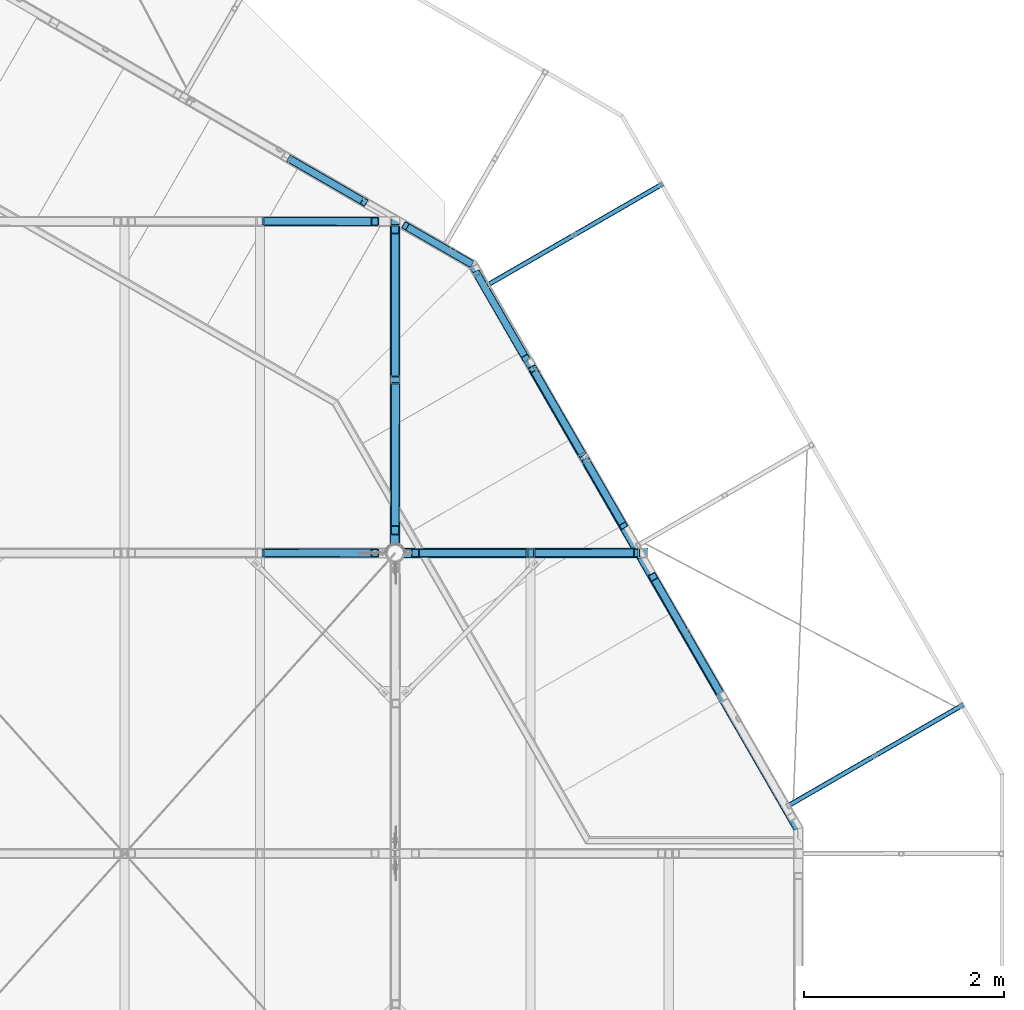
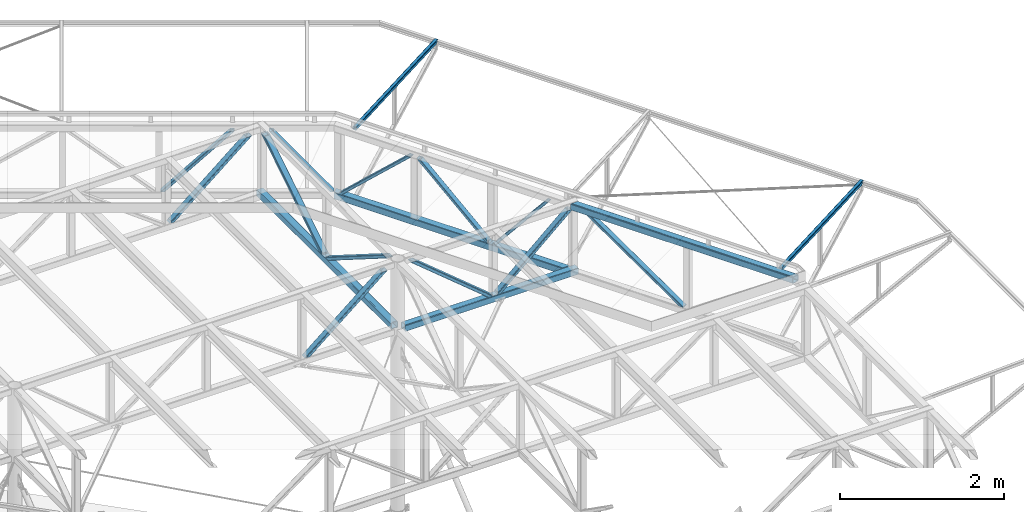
# One storey, part 59 of 132: 18 discrete accessories, 9 elements without a shape of their own.
"""IFC2X3 building model written with IfcOpenShell, lengths in millimetres."""

from ifc_helpers import new_model, si_unit, frame, origin_with_axes, origin_2d_with_axis, place, context, subcontext, project, spatial, hollow_rectangle, circle, extrude, boolean, clip, halfspace, material, type_object, element, aggregate, save


model = new_model("IFC2X3")

# Units and contexts
model_context = context("Model", 3, precision=1e-05, world=origin_with_axes())
body_context = subcontext(model_context, "Body", "Model", "MODEL_VIEW")
ifc_project = project(units=[si_unit("LENGTHUNIT", "METRE", prefix="MILLI"), si_unit("AREAUNIT", "SQUARE_METRE"), si_unit("VOLUMEUNIT", "CUBIC_METRE"), si_unit("MASSUNIT", "GRAM", prefix="KILO"), si_unit("TIMEUNIT", "SECOND"), si_unit("PLANEANGLEUNIT", "RADIAN"), si_unit("SOLIDANGLEUNIT", "STERADIAN"), si_unit("THERMODYNAMICTEMPERATUREUNIT", "DEGREE_CELSIUS"), si_unit("LUMINOUSINTENSITYUNIT", "LUMEN")], contexts=[model_context])

# Site, building, storey
site_placement = place(None, origin_with_axes())
site = spatial("IfcSite", under=ifc_project, at=site_placement, Name="Budowa", CompositionType="ELEMENT")
building_placement = place(site_placement, origin_with_axes())
building = spatial("IfcBuilding", under=site, at=building_placement, Name="Undefined", CompositionType="ELEMENT")
storey_placement = place(building_placement, origin_with_axes())
storey = spatial("IfcBuildingStorey", under=building, at=storey_placement, Name="Undefined", CompositionType="ELEMENT", Elevation=0.0)

# Assembly, discrete accessory
assembly_1_placement = place(storey_placement, origin_with_axes())
assembly_1 = element("IfcElementAssembly", 1, at=assembly_1_placement, inside=storey, Name="Steel Assembly", AssemblyPlace="NOTDEFINED", PredefinedType="RIGID_FRAME")
ifc_material = material(Name="STEEL/S235")
discrete_accessory_type = type_object("IfcDiscreteAccessoryType", Name="BEAM")
discrete_accessory_1_placement = place(assembly_1_placement, frame((24169.0634543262, 15491.2543884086, 13855.0311915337), z_axis=(-0.499969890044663, 0.866042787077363, 0.0), x_axis=(0.864962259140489, 0.499346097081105, 0.0499376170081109)))
discrete_accessory_1 = element("IfcDiscreteAccessory", 2, at=discrete_accessory_1_placement, type_object=discrete_accessory_type, material=ifc_material, Name="BEAM", ObjectType="SHS50*4", context=body_context, shape_type="Clipping", body=[
    clip(clip(extrude(hollow_rectangle(XDim=50.0, YDim=50.0, WallThickness=4.0, InnerFilletRadius=4.0, OuterFilletRadius=8.0, at=origin_2d_with_axis()), frame((2047.80222226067, -1.81898940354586e-12, -1.00153404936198e-12), z_axis=(-1.0, 0.0, 0.0), x_axis=(0.0, -1.0, 0.0)), (0.0, 0.0, 1.0), 2120.54), halfspace(frame((2002.5989463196, -25.0000000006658, -7.85761585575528e-07), z_axis=(-0.689225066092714, -0.724547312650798, 2.88487317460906e-10), x_axis=(0.0, 0.0, -1.0)), True)), halfspace(frame((-1.23691279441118e-08, -25.0000000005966, 73.1665326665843), z_axis=(-0.998752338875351, -0.0499376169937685, 0.0), x_axis=(0.0, 0.0, -1.0)), False)),
])
aggregate(assembly_1, [discrete_accessory_1])

assembly_2_placement = place(storey_placement, origin_with_axes())
assembly_2 = element("IfcElementAssembly", 3, at=assembly_2_placement, inside=storey, Name="Steel Assembly", AssemblyPlace="NOTDEFINED", PredefinedType="RIGID_FRAME")
discrete_accessory_2_placement = place(assembly_2_placement, frame((21169.1983036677, 20687.484663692, 13855.0311915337), z_axis=(-0.499969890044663, 0.866042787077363, 0.0), x_axis=(0.864962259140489, 0.499346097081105, 0.0499376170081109)))
discrete_accessory_2 = element("IfcDiscreteAccessory", 4, at=discrete_accessory_2_placement, type_object=discrete_accessory_type, material=ifc_material, Name="BEAM", ObjectType="SHS50*4", context=body_context, shape_type="Clipping", body=[
    clip(clip(extrude(hollow_rectangle(XDim=50.0, YDim=50.0, WallThickness=4.0, InnerFilletRadius=4.0, OuterFilletRadius=8.0, at=origin_2d_with_axis()), frame((2047.80222226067, -1.81898940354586e-12, -1.00153404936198e-12), z_axis=(-1.0, 0.0, 0.0), x_axis=(0.0, -1.0, 0.0)), (0.0, 0.0, 1.0), 2120.54), halfspace(frame((2002.5989463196, -25.0000000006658, -7.85761585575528e-07), z_axis=(-0.689225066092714, -0.724547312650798, 2.88487317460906e-10), x_axis=(0.0, 0.0, -1.0)), True)), halfspace(frame((-1.23691279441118e-08, -25.0000000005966, 73.1665326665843), z_axis=(-0.998752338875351, -0.0499376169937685, 0.0), x_axis=(0.0, 0.0, -1.0)), False)),
])
aggregate(assembly_2, [discrete_accessory_2])

# Assembly, discrete accessories
assembly_3_placement = place(storey_placement, origin_with_axes())
assembly_3 = element("IfcElementAssembly", 5, at=assembly_3_placement, inside=storey, Name="Steel Assembly", AssemblyPlace="NOTDEFINED", PredefinedType="RIGID_FRAME")
discrete_accessory_3_placement = place(assembly_3_placement, frame((23489.6987875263, 16565.565121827, 12830.0000000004), z_axis=(0.866025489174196, 0.499999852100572, 0.0), x_axis=(-0.412062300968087, 0.713712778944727, 0.566408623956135)))
solid_1 = boolean("DIFFERENCE", boolean("DIFFERENCE", extrude(hollow_rectangle(XDim=90.0, YDim=90.0, WallThickness=4.0, InnerFilletRadius=4.0, OuterFilletRadius=8.0, at=origin_2d_with_axis()), frame((538.088190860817, 782.918321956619, -1.00875396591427e-07), z_axis=(-0.566408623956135, -0.824124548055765, 1.04791647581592e-10), x_axis=(0.0, 0.0, 1.0)), (0.0, 0.0, 1.0), 900.0), halfspace(frame((-286.036357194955, 1349.32694591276, 5.13755367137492e-08), z_axis=(-0.566408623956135, -0.824124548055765, 1.04791647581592e-10), x_axis=(0.0, 0.0, 1.0)), True)), halfspace(frame((-795.804118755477, 607.614852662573, 1.45690137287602e-07), z_axis=(0.566408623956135, 0.824124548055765, -1.04794017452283e-10), x_axis=(0.0, 0.0, -1.0)), True))
discrete_accessory_3 = element("IfcDiscreteAccessory", 6, at=discrete_accessory_3_placement, type_object=discrete_accessory_type, material=ifc_material, Name="BEAM", ObjectType="RHS80*40*4", context=body_context, shape_type="CSG", body=[
    boolean("DIFFERENCE", boolean("DIFFERENCE", boolean("DIFFERENCE", extrude(hollow_rectangle(XDim=40.0, YDim=80.0, WallThickness=4.0, InnerFilletRadius=4.0, OuterFilletRadius=8.0, at=origin_2d_with_axis()), frame((1787.39149860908, -1.98440319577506e-13, -3.60765181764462e-12), z_axis=(-1.0, 0.0, 0.0), x_axis=(0.0, -1.0, 0.0)), (0.0, 0.0, 1.0), 1809.27), solid_1), halfspace(frame((1737.18941065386, -41.2062274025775, 1000.00000000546), z_axis=(-0.566408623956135, -0.824124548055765, 1.04791647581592e-10), x_axis=(0.824124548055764, -0.566408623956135, -1.52471329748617e-10)), True)), halfspace(frame((28.3204313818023, 41.2062274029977, 999.999999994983), z_axis=(0.566408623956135, 0.824124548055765, -1.04794017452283e-10), x_axis=(-0.824124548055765, 0.566408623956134, 1.52474967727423e-10)), True)),
])
discrete_accessory_4_placement = place(assembly_3_placement, frame((22704.5987308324, 17925.3981897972, 13830.0), z_axis=(0.866025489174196, 0.499999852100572, 0.0), x_axis=(0.5000000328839, -0.866025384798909, 0.0)))
discrete_accessory_4 = element("IfcDiscreteAccessory", 7, at=discrete_accessory_4_placement, type_object=discrete_accessory_type, material=ifc_material, Name="BEAM", ObjectType="SHS100*8", context=body_context, shape_type="Clipping", body=[
    clip(clip(extrude(hollow_rectangle(XDim=100.0, YDim=100.0, WallThickness=8.0, InnerFilletRadius=8.0, OuterFilletRadius=16.0, at=origin_2d_with_axis()), frame((3156.92730982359, 0.0, 0.0), z_axis=(-1.0, 0.0, 0.0), x_axis=(0.0, -1.0, 0.0)), (0.0, 0.0, 1.0), 3251.23), halfspace(frame((3077.40508994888, 0.0, -50.0000000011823), z_axis=(0.965925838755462, 0.0, -0.2588189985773), x_axis=(0.0, -1.0, 0.0)), False)), halfspace(frame((0.518048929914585, -50.0, 49.7009042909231), z_axis=(0.866025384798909, 0.0, -0.5000000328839), x_axis=(0.0, 1.0, 0.0)), True)),
])
aggregate(assembly_3, [discrete_accessory_3, discrete_accessory_4])

assembly_4_placement = place(storey_placement, origin_with_axes())
assembly_4 = element("IfcElementAssembly", 8, at=assembly_4_placement, inside=storey, Name="Steel Assembly", AssemblyPlace="NOTDEFINED", PredefinedType="RIGID_FRAME")
discrete_accessory_5_placement = place(assembly_4_placement, frame((21005.0392852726, 20873.8500649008, 12829.9999999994), z_axis=(0.499969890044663, 0.866042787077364, 0.0), x_axis=(-0.550737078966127, 0.317942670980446, 0.771751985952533)))
discrete_accessory_5 = element("IfcDiscreteAccessory", 9, at=discrete_accessory_5_placement, type_object=discrete_accessory_type, material=ifc_material, Name="BEAM", ObjectType="RHS80*40*4", context=body_context, shape_type="Clipping", body=[
    clip(clip(extrude(hollow_rectangle(XDim=40.0, YDim=80.0, WallThickness=4.0, InnerFilletRadius=4.0, OuterFilletRadius=8.0, at=origin_2d_with_axis()), frame((1308.75188651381, 7.64194053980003e-13, -5.26465298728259e-14), z_axis=(-1.0, 0.0, 0.0), x_axis=(0.0, -1.0, 0.0)), (0.0, 0.0, 1.0), 1321.75), halfspace(frame((1257.16546421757, -31.7961818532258, 1000.0000000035), z_axis=(-0.771751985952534, -0.635923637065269, 7.1397709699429e-11), x_axis=(0.635923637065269, -0.771751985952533, -5.88306647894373e-11)), True)), halfspace(frame((38.5875993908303, 31.7961818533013, 999.999999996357), z_axis=(0.771751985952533, 0.63592363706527, -7.13974205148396e-11), x_axis=(-0.635923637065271, 0.771751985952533, 5.8831574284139e-11)), True)),
])
discrete_accessory_6_placement = place(assembly_4_placement, frame((22524.601550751, 18237.3625633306, 13830.0000000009), z_axis=(0.866025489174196, 0.499999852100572, 0.0), x_axis=(-0.317961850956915, 0.550726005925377, -0.771751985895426)))
solid_2 = boolean("DIFFERENCE", boolean("DIFFERENCE", extrude(hollow_rectangle(XDim=100.0, YDim=100.0, WallThickness=4.0, InnerFilletRadius=4.0, OuterFilletRadius=8.0, at=origin_2d_with_axis()), frame((562.315003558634, 603.795327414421, 8.66620607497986e-08), z_axis=(0.771751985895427, -0.635923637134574, 1.24207727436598e-10), x_axis=(0.635923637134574, 0.771751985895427, 1.02347408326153e-10)), (0.0, 0.0, 1.0), 900.0), halfspace(frame((562.315003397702, 603.795327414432, 1000.00000008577), z_axis=(0.771751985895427, -0.635923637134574, 1.24207727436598e-10), x_axis=(0.635923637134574, 0.771751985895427, 1.02347408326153e-10)), True)), halfspace(frame((1256.89179070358, 31.4640539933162, 1000.00000019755), z_axis=(-0.771751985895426, 0.635923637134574, -1.24207010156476e-10), x_axis=(-0.635923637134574, -0.771751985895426, -1.02347257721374e-10)), True))
discrete_accessory_6 = element("IfcDiscreteAccessory", 10, at=discrete_accessory_6_placement, type_object=discrete_accessory_type, material=ifc_material, Name="BEAM", ObjectType="RHS80*40*4", context=body_context, shape_type="CSG", body=[
    boolean("DIFFERENCE", boolean("DIFFERENCE", boolean("DIFFERENCE", extrude(hollow_rectangle(XDim=40.0, YDim=80.0, WallThickness=4.0, InnerFilletRadius=4.0, OuterFilletRadius=8.0, at=origin_2d_with_axis()), frame((1286.18037682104, -1.81898940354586e-12, 9.30315642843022e-13), z_axis=(-1.0, 0.0, 0.0), x_axis=(0.0, -1.0, 0.0)), (0.0, 0.0, 1.0), 1276.61), solid_2), halfspace(frame((1257.16546406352, 31.7961818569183, 999.999999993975), z_axis=(-0.771751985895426, 0.635923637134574, -1.24207010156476e-10), x_axis=(-0.635923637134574, -0.771751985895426, -1.02347257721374e-10)), True)), halfspace(frame((38.5875991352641, -31.7961818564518, 1000.0000000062), z_axis=(0.771751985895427, -0.635923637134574, 1.24207727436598e-10), x_axis=(0.635923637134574, 0.771751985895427, 1.02347408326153e-10)), True)),
])
discrete_accessory_7_placement = place(assembly_4_placement, frame((21572.8166314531, 19885.9021784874, 13830.0000000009), z_axis=(0.866025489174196, 0.499999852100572, 0.0), x_axis=(0.366880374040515, -0.635455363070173, -0.679408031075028)))
solid_3 = boolean("DIFFERENCE", boolean("DIFFERENCE", extrude(hollow_rectangle(XDim=100.0, YDim=100.0, WallThickness=4.0, InnerFilletRadius=4.0, OuterFilletRadius=8.0, at=origin_2d_with_axis()), frame((33.9704017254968, 36.6880335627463, 1.12347189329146e-08), z_axis=(0.679408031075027, 0.733760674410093, 2.95361735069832e-10), x_axis=(-0.733760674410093, 0.679408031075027, -3.18989779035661e-10)), (0.0, 0.0, 1.0), 900.0), halfspace(frame((33.9704012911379, 36.6880335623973, 1000.0000000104), z_axis=(0.679408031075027, 0.733760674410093, 2.95361735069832e-10), x_axis=(-0.733760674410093, 0.679408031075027, -3.18989779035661e-10)), True)), halfspace(frame((645.437629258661, 697.072640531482, 1000.00000027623), z_axis=(-0.679408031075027, -0.733760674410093, -2.95362433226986e-10), x_axis=(0.733760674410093, -0.679408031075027, 3.18989805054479e-10)), True))
solid_4 = boolean("DIFFERENCE", boolean("DIFFERENCE", extrude(hollow_rectangle(XDim=100.0, YDim=100.0, WallThickness=4.0, InnerFilletRadius=4.0, OuterFilletRadius=8.0, at=origin_2d_with_axis()), frame((826.431930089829, -697.072639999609, 3.55705837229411e-07), z_axis=(0.679408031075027, 0.733760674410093, 2.95361735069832e-10), x_axis=(-0.733760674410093, 0.679408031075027, -3.18989779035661e-10)), (0.0, 0.0, 1.0), 900.0), halfspace(frame((826.431929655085, -697.0726399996, 1000.00000035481), z_axis=(0.679408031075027, 0.733760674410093, 2.95361735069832e-10), x_axis=(-0.733760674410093, 0.679408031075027, -3.18989779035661e-10)), True)), halfspace(frame((1437.89915762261, -36.6880330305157, 1000.00000062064), z_axis=(-0.679408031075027, -0.733760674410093, -2.95362433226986e-10), x_axis=(0.733760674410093, -0.679408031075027, 3.18989805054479e-10)), True))
discrete_accessory_7 = element("IfcDiscreteAccessory", 11, at=discrete_accessory_7_placement, type_object=discrete_accessory_type, material=ifc_material, Name="BEAM", ObjectType="RHS80*40*4", context=body_context, shape_type="CSG", body=[
    boolean("DIFFERENCE", boolean("DIFFERENCE", boolean("DIFFERENCE", boolean("DIFFERENCE", extrude(hollow_rectangle(XDim=40.0, YDim=80.0, WallThickness=4.0, InnerFilletRadius=4.0, OuterFilletRadius=8.0, at=origin_2d_with_axis()), frame((1455.54966626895, 0.0, -1.67210073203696e-14), z_axis=(-1.0, 0.0, 0.0), x_axis=(0.0, -1.0, 0.0)), (0.0, 0.0, 1.0), 1439.23), solid_3), solid_4), halfspace(frame((1437.89915762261, -36.6880330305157, 1000.00000062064), z_axis=(-0.679408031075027, -0.733760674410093, -2.95362433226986e-10), x_axis=(0.733760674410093, -0.679408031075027, 3.18989805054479e-10)), True)), halfspace(frame((33.9704012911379, 36.6880335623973, 1000.0000000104), z_axis=(0.679408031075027, 0.733760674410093, 2.95361735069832e-10), x_axis=(-0.733760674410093, 0.679408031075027, -3.18989779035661e-10)), True)),
])
discrete_accessory_8_placement = place(assembly_4_placement, frame((21014.2182094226, 20831.9464929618, 12829.9999999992), z_axis=(0.866025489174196, 0.499999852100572, 0.0), x_axis=(0.366880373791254, -0.635455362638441, 0.679408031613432)))
solid_5 = boolean("DIFFERENCE", boolean("DIFFERENCE", extrude(hollow_rectangle(XDim=100.0, YDim=100.0, WallThickness=4.0, InnerFilletRadius=4.0, OuterFilletRadius=8.0, at=origin_2d_with_axis()), frame((659.083833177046, -684.437266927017, 10.7382027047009), z_axis=(-0.679408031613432, 0.73376067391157, -2.95361762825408e-10), x_axis=(-0.73376067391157, -0.679408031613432, -3.18989668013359e-10)), (0.0, 0.0, 1.0), 900.0), halfspace(frame((659.08383274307, -684.437266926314, 1010.73820270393), z_axis=(-0.679408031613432, 0.73376067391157, -2.95361762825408e-10), x_axis=(-0.73376067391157, -0.679408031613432, -3.18989668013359e-10)), True)), halfspace(frame((47.6166042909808, -24.0526604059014, 1010.73820243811), z_axis=(0.679408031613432, -0.73376067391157, 2.95362334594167e-10), x_axis=(0.73376067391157, 0.679408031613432, 3.18989805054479e-10)), True))
solid_6 = boolean("DIFFERENCE", boolean("DIFFERENCE", extrude(hollow_rectangle(XDim=100.0, YDim=100.0, WallThickness=4.0, InnerFilletRadius=4.0, OuterFilletRadius=8.0, at=origin_2d_with_axis()), frame((1451.54536100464, 49.3234072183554, 10.7382030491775), z_axis=(-0.679408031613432, 0.73376067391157, -2.95361762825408e-10), x_axis=(-0.73376067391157, -0.679408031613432, -3.18989668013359e-10)), (0.0, 0.0, 1.0), 900.0), halfspace(frame((1451.54536057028, 49.3234072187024, 1010.73820304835), z_axis=(-0.679408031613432, 0.73376067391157, -2.95361762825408e-10), x_axis=(-0.73376067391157, -0.679408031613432, -3.18989668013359e-10)), True)), halfspace(frame((840.078132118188, 709.708013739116, 1010.73820278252), z_axis=(0.679408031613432, -0.73376067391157, 2.95362334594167e-10), x_axis=(0.73376067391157, 0.679408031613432, 3.18989805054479e-10)), True))
discrete_accessory_8 = element("IfcDiscreteAccessory", 12, at=discrete_accessory_8_placement, type_object=discrete_accessory_type, material=ifc_material, Name="BEAM", ObjectType="RHS80*40*4", context=body_context, shape_type="CSG", body=[
    boolean("DIFFERENCE", boolean("DIFFERENCE", boolean("DIFFERENCE", boolean("DIFFERENCE", extrude(hollow_rectangle(XDim=40.0, YDim=80.0, WallThickness=4.0, InnerFilletRadius=4.0, OuterFilletRadius=8.0, at=origin_2d_with_axis()), frame((1467.50994166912, 1.65606307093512e-12, 8.39079865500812e-13), z_axis=(-1.0, 0.0, 0.0), x_axis=(0.0, -1.0, 0.0)), (0.0, 0.0, 1.0), 1463.15), solid_5), solid_6), halfspace(frame((1437.89915717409, 36.6880336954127, 999.999999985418), z_axis=(-0.679408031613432, 0.73376067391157, -2.95361762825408e-10), x_axis=(-0.73376067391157, -0.679408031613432, -3.18989668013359e-10)), True)), halfspace(frame((33.9704011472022, -36.6880336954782, 1000.00000001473), z_axis=(0.679408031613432, -0.73376067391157, 2.95362334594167e-10), x_axis=(0.73376067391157, 0.679408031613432, 3.18989805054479e-10)), True)),
])
discrete_accessory_9_placement = place(assembly_4_placement, frame((20994.4181832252, 20887.7175423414, 12830.0), z_axis=(0.0, 0.0, 1.0), x_axis=(0.5000000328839, -0.866025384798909, 0.0)))
discrete_accessory_9 = element("IfcDiscreteAccessory", 13, at=discrete_accessory_9_placement, type_object=discrete_accessory_type, material=ifc_material, Name="BEAM", ObjectType="SHS100*5", context=body_context, shape_type="Clipping", body=[
    clip(clip(extrude(hollow_rectangle(XDim=100.0, YDim=100.0, WallThickness=5.0, InnerFilletRadius=5.0, OuterFilletRadius=10.0, at=origin_2d_with_axis()), frame((3363.31663048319, 1.86701578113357e-13, 0.0), z_axis=(-1.0, 0.0, 0.0), x_axis=(0.0, -1.0, 0.0)), (0.0, 0.0, 1.0), 3429.57), halfspace(frame((3247.84656727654, -49.9999999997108, -50.0), z_axis=(0.866025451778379, -0.499999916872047, 0.0), x_axis=(0.0, 0.0, 1.0)), False)), halfspace(frame((26.7967793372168, -49.9999999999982, 0.0), z_axis=(0.965921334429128, 0.258835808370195, 0.0), x_axis=(0.0, 0.0, 1.0)), True)),
])
aggregate(assembly_4, [discrete_accessory_5, discrete_accessory_6, discrete_accessory_7, discrete_accessory_8, discrete_accessory_9])

# Assembly, discrete accessory
assembly_5_placement = place(storey_placement, origin_with_axes())
assembly_5 = element("IfcElementAssembly", 14, at=assembly_5_placement, inside=storey, Name="Steel Assembly", AssemblyPlace="NOTDEFINED", PredefinedType="RIGID_FRAME")
discrete_accessory_10_placement = place(assembly_5_placement, frame((19956.0939902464, 21479.4102912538, 13830.0000000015), z_axis=(0.499969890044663, 0.866042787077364, 0.0), x_axis=(-0.593830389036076, 0.342820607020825, -0.72790074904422)))
solid_7 = boolean("DIFFERENCE", boolean("DIFFERENCE", extrude(hollow_rectangle(XDim=90.0, YDim=90.0, WallThickness=4.0, InnerFilletRadius=4.0, OuterFilletRadius=8.0, at=origin_2d_with_axis()), frame((682.221233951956, 651.306316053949, 2.31073710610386e-07), z_axis=(0.72790074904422, -0.685682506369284, 2.47249942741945e-10), x_axis=(0.685682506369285, 0.72790074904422, 2.32910135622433e-10)), (0.0, 0.0, 1.0), 900.0), halfspace(frame((682.221233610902, 651.306316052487, 1000.00000023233), z_axis=(0.72790074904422, -0.685682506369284, 2.47249942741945e-10), x_axis=(0.685682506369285, 0.72790074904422, 2.32910135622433e-10)), True)), halfspace(frame((1337.3319077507, 34.1920603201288, 1000.00000045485), z_axis=(-0.727900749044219, 0.685682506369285, -2.47248696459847e-10), x_axis=(-0.685682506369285, -0.727900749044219, -2.32909314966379e-10)), True))
discrete_accessory_10 = element("IfcDiscreteAccessory", 15, at=discrete_accessory_10_placement, type_object=discrete_accessory_type, material=ifc_material, Name="BEAM", ObjectType="RHS80*40*4", context=body_context, shape_type="CSG", body=[
    boolean("DIFFERENCE", boolean("DIFFERENCE", boolean("DIFFERENCE", extrude(hollow_rectangle(XDim=40.0, YDim=80.0, WallThickness=4.0, InnerFilletRadius=4.0, OuterFilletRadius=8.0, at=origin_2d_with_axis()), frame((1373.49673337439, 0.0, -8.42217636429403e-13), z_axis=(-1.0, 0.0, 0.0), x_axis=(0.0, -1.0, 0.0)), (0.0, 0.0, 1.0), 1373.18), solid_7), halfspace(frame((1337.41863297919, 34.2841253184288, 999.999999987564), z_axis=(-0.727900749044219, 0.685682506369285, -2.47248696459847e-10), x_axis=(-0.685682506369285, -0.727900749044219, -2.32909314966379e-10)), True)), halfspace(frame((36.3950371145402, -34.2841253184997, 1000.00000001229), z_axis=(0.72790074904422, -0.685682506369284, 2.47249942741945e-10), x_axis=(0.685682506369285, 0.72790074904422, 2.32910135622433e-10)), True)),
])
aggregate(assembly_5, [discrete_accessory_10])

# Assembly, discrete accessories
assembly_6_placement = place(storey_placement, origin_with_axes())
assembly_6 = element("IfcElementAssembly", 16, at=assembly_6_placement, inside=storey, Name="Steel Assembly", AssemblyPlace="NOTDEFINED", PredefinedType="RIGID_FRAME")
discrete_accessory_11_placement = place(assembly_6_placement, frame((20365.8999999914, 18000.0000000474, 13830.0000000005), z_axis=(0.0, -1.0, 0.0), x_axis=(0.77030791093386, 0.0, -0.637672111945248)))
solid_8 = boolean("DIFFERENCE", boolean("DIFFERENCE", extrude(hollow_rectangle(XDim=90.0, YDim=90.0, WallThickness=6.0, InnerFilletRadius=6.0, OuterFilletRadius=12.0, at=origin_2d_with_axis()), frame((1536.320462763, 38.5153958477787, 3.71073838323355e-10), z_axis=(-0.637672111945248, 0.770307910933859, 0.0), x_axis=(0.0, 0.0, -1.0)), (0.0, 0.0, 1.0), 900.0), halfspace(frame((766.012551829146, -599.15671609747, 3.71073838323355e-10), z_axis=(-0.637672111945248, 0.770307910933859, 0.0), x_axis=(0.0, 0.0, -1.0)), True)), halfspace(frame((192.107651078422, 94.1204037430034, 3.71073838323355e-10), z_axis=(0.637672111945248, -0.770307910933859, 0.0), x_axis=(0.0, 0.0, 1.0)), True))
discrete_accessory_11 = element("IfcDiscreteAccessory", 17, at=discrete_accessory_11_placement, type_object=discrete_accessory_type, material=ifc_material, Name="BEAM", ObjectType="RHS90*50*5", context=body_context, shape_type="CSG", body=[
    boolean("DIFFERENCE", boolean("DIFFERENCE", boolean("DIFFERENCE", extrude(hollow_rectangle(XDim=50.0, YDim=90.0, WallThickness=5.0, InnerFilletRadius=7.5, OuterFilletRadius=12.5, at=origin_2d_with_axis()), frame((1532.27723418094, -9.9455317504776e-13, 0.0), z_axis=(-1.0, 0.0, 0.0), x_axis=(0.0, -1.0, 0.0)), (0.0, 0.0, 1.0), 1496.35), solid_8), halfspace(frame((1536.32046239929, 38.5153955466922, 1000.0), z_axis=(-0.637672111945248, 0.770307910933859, 0.0), x_axis=(-0.770307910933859, -0.637672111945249, 0.0)), True)), halfspace(frame((31.8836055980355, -38.5153955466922, 1000.0), z_axis=(0.637672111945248, -0.770307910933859, 0.0), x_axis=(0.77030791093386, 0.637672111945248, 0.0)), True)),
])
discrete_accessory_12_placement = place(assembly_6_placement, frame((22697.9000000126, 18000.0000000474, 13830.0000000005), z_axis=(0.0, -1.0, 0.0), x_axis=(-0.747115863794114, 0.0, -0.664693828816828)))
solid_9 = boolean("DIFFERENCE", boolean("DIFFERENCE", extrude(hollow_rectangle(XDim=100.0, YDim=100.0, WallThickness=8.0, InnerFilletRadius=8.0, OuterFilletRadius=16.0, at=origin_2d_with_axis()), frame((631.459137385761, 709.760070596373, 3.71073838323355e-10), z_axis=(-0.664693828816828, -0.747115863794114, 0.0), x_axis=(0.0, 0.0, -1.0)), (0.0, 0.0, 1.0), 900.0), halfspace(frame((1378.57500117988, 45.0662417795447, 3.71073838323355e-10), z_axis=(-0.664693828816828, -0.747115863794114, 0.0), x_axis=(0.0, 0.0, -1.0)), True)), halfspace(frame((780.350555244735, -627.338035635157, 3.71073838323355e-10), z_axis=(0.664693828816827, 0.747115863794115, 0.0), x_axis=(0.0, 0.0, 1.0)), True))
solid_10 = boolean("DIFFERENCE", boolean("DIFFERENCE", extrude(hollow_rectangle(XDim=90.0, YDim=90.0, WallThickness=6.0, InnerFilletRadius=6.0, OuterFilletRadius=12.0, at=origin_2d_with_axis()), frame((1471.21736829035, -37.3557929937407, 3.71073838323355e-10), z_axis=(-0.664693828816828, -0.747115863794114, 0.0), x_axis=(0.0, 0.0, -1.0)), (0.0, 0.0, 1.0), 900.0), halfspace(frame((2218.33323208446, -702.049621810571, 3.71073838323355e-10), z_axis=(-0.664693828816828, -0.747115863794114, 0.0), x_axis=(0.0, 0.0, -1.0)), True)), halfspace(frame((1620.10878614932, -1374.45389922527, 3.71073838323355e-10), z_axis=(0.664693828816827, 0.747115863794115, 0.0), x_axis=(0.0, 0.0, 1.0)), True))
discrete_accessory_12 = element("IfcDiscreteAccessory", 18, at=discrete_accessory_12_placement, type_object=discrete_accessory_type, material=ifc_material, Name="BEAM", ObjectType="RHS90*50*5", context=body_context, shape_type="CSG", body=[
    boolean("DIFFERENCE", boolean("DIFFERENCE", boolean("DIFFERENCE", boolean("DIFFERENCE", extrude(hollow_rectangle(XDim=50.0, YDim=90.0, WallThickness=5.0, InnerFilletRadius=7.5, OuterFilletRadius=12.5, at=origin_2d_with_axis()), frame((1442.35927093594, 0.0, 0.0), z_axis=(-1.0, 0.0, 0.0), x_axis=(0.0, -1.0, 0.0)), (0.0, 0.0, 1.0), 1380.27), solid_9), solid_10), halfspace(frame((1471.21736906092, -37.3557936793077, 1000.0), z_axis=(-0.664693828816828, -0.747115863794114, 0.0), x_axis=(0.747115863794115, -0.664693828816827, 0.0)), True)), halfspace(frame((33.2346914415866, 37.3557931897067, 1000.0), z_axis=(0.664693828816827, 0.747115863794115, 0.0), x_axis=(-0.747115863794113, 0.664693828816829, 0.0)), True)),
])
discrete_accessory_13_placement = place(assembly_6_placement, frame((20313.9, 18000.000000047, 12830.0), z_axis=(0.0, -1.0, 0.0), x_axis=(1.0, 0.0, 0.0)))
discrete_accessory_13 = element("IfcDiscreteAccessory", 19, at=discrete_accessory_13_placement, type_object=discrete_accessory_type, material=ifc_material, Name="BEAM", ObjectType="SHS100*8", context=body_context, shape_type="CSG", body=[
    boolean("DIFFERENCE", boolean("DIFFERENCE", extrude(hollow_rectangle(XDim=100.0, YDim=100.0, WallThickness=8.0, InnerFilletRadius=8.0, OuterFilletRadius=16.0, at=origin_2d_with_axis()), frame((2434.0, 0.0, 0.0), z_axis=(-1.0, 0.0, 0.0), x_axis=(0.0, -1.0, 0.0)), (0.0, 0.0, 1.0), 2522.9), extrude(circle(Radius=89.9, at=origin_2d_with_axis()), frame((-88.9000000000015, 1950.0, -5.45696821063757e-12), z_axis=(0.0, -1.0, 0.0), x_axis=(0.0, 0.0, 1.0)), (0.0, 0.0, 1.0), 2100.0)), halfspace(frame((-88.9000000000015, -5339.0, -5.45696821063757e-12), z_axis=(-1.0, 0.0, 0.0), x_axis=(0.0, 0.0, -1.0)), False)),
])
aggregate(assembly_6, [discrete_accessory_11, discrete_accessory_12, discrete_accessory_13])

# Assembly, discrete accessory
assembly_7_placement = place(storey_placement, origin_with_axes())
assembly_7 = element("IfcElementAssembly", 20, at=assembly_7_placement, inside=storey, Name="Steel Assembly", AssemblyPlace="NOTDEFINED", PredefinedType="RIGID_FRAME")
discrete_accessory_14_placement = place(assembly_7_placement, frame((20083.9999999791, 21310.0000000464, 13830.0), z_axis=(0.0, -1.0, 0.0), x_axis=(-0.770567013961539, 0.0, -0.637358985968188)))
solid_11 = boolean("DIFFERENCE", boolean("DIFFERENCE", extrude(hollow_rectangle(XDim=90.0, YDim=90.0, WallThickness=6.0, InnerFilletRadius=6.0, OuterFilletRadius=12.0, at=origin_2d_with_axis()), frame((1537.1065565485, -38.5283507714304, -6.22094376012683e-10), z_axis=(-0.637358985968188, -0.770567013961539, 0.0), x_axis=(0.770567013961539, -0.637358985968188, 0.0)), (0.0, 0.0, 1.0), 900.0), halfspace(frame((1537.1065565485, -38.5283507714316, 999.999999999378), z_axis=(-0.637358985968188, -0.770567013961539, 0.0), x_axis=(0.770567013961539, -0.637358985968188, 0.0)), True)), halfspace(frame((963.483469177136, -732.038663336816, 999.999999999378), z_axis=(0.637358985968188, 0.770567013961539, 0.0), x_axis=(-0.770567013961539, 0.637358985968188, 0.0)), True))
discrete_accessory_14 = element("IfcDiscreteAccessory", 21, at=discrete_accessory_14_placement, type_object=discrete_accessory_type, material=ifc_material, Name="BEAM", ObjectType="RHS90*50*5", context=body_context, shape_type="CSG", body=[
    boolean("DIFFERENCE", boolean("DIFFERENCE", boolean("DIFFERENCE", extrude(hollow_rectangle(XDim=50.0, YDim=90.0, WallThickness=5.0, InnerFilletRadius=7.5, OuterFilletRadius=12.5, at=origin_2d_with_axis()), frame((1533.07734352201, 2.27373675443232e-12, 0.0), z_axis=(-1.0, 0.0, 0.0), x_axis=(0.0, -1.0, 0.0)), (0.0, 0.0, 1.0), 1497.18), solid_11), halfspace(frame((1537.1065565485, -38.5283507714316, 999.999999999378), z_axis=(-0.637358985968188, -0.770567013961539, 0.0), x_axis=(0.770567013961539, -0.637358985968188, 0.0)), True)), halfspace(frame((31.867949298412, 38.52835069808, 1000.0), z_axis=(0.637358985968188, 0.770567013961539, 0.0), x_axis=(-0.770567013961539, 0.637358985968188, 0.0)), True)),
])
aggregate(assembly_7, [discrete_accessory_14])

# Assembly, discrete accessories
assembly_8_placement = place(storey_placement, origin_with_axes())
assembly_8 = element("IfcElementAssembly", 22, at=assembly_8_placement, inside=storey, Name="Steel Assembly", AssemblyPlace="NOTDEFINED", PredefinedType="RIGID_FRAME")
discrete_accessory_15_placement = place(assembly_8_placement, frame((20225.0000000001, 18148.8000000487, 13830.0), z_axis=(1.0, 0.0, 0.0), x_axis=(0.0, 0.845757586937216, -0.533567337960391)))
solid_12 = boolean("DIFFERENCE", boolean("DIFFERENCE", extrude(hollow_rectangle(XDim=90.0, YDim=90.0, WallThickness=6.0, InnerFilletRadius=6.0, OuterFilletRadius=12.0, at=origin_2d_with_axis()), frame((1843.27053417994, 39.6200431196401, 1.45519152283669e-11), z_axis=(-0.533567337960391, 0.845757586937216, 0.0), x_axis=(-0.845757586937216, -0.533567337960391, 0.0)), (0.0, 0.0, 1.0), 900.0), halfspace(frame((1843.27053417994, 39.6200431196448, 1000.00000000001), z_axis=(-0.533567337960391, 0.845757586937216, 0.0), x_axis=(0.0, 0.0, -1.0)), True)), halfspace(frame((1363.05993001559, 800.801871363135, 1000.00000000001), z_axis=(0.53356733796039, -0.845757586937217, 0.0), x_axis=(0.0, 0.0, -1.0)), True))
discrete_accessory_15 = element("IfcDiscreteAccessory", 23, at=discrete_accessory_15_placement, type_object=discrete_accessory_type, material=ifc_material, Name="BEAM", ObjectType="RHS90*50*5", context=body_context, shape_type="CSG", body=[
    boolean("DIFFERENCE", boolean("DIFFERENCE", boolean("DIFFERENCE", extrude(hollow_rectangle(XDim=50.0, YDim=90.0, WallThickness=5.0, InnerFilletRadius=7.5, OuterFilletRadius=12.5, at=origin_2d_with_axis()), frame((1845.48264413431, -3.53553394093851e-12, 0.0), z_axis=(-1.0, 0.0, 0.0), x_axis=(0.0, -1.0, 0.0)), (0.0, 0.0, 1.0), 1816.79), solid_12), halfspace(frame((1847.49932138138, 42.287879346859, 1000.0), z_axis=(-0.533567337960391, 0.845757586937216, 0.0), x_axis=(-0.845757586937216, -0.533567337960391, 0.0)), True)), halfspace(frame((26.6783668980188, -42.2878793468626, 1000.0), z_axis=(0.53356733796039, -0.845757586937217, 0.0), x_axis=(0.845757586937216, 0.533567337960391, 0.0)), True)),
])
discrete_accessory_16_placement = place(assembly_8_placement, frame((20225.0000000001, 21309.0000000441, 13830.0), z_axis=(1.0, 0.0, 0.0), x_axis=(0.0, -0.845757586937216, -0.533567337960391)))
solid_13 = boolean("DIFFERENCE", boolean("DIFFERENCE", extrude(hollow_rectangle(XDim=90.0, YDim=90.0, WallThickness=6.0, InnerFilletRadius=6.0, OuterFilletRadius=12.0, at=origin_2d_with_axis()), frame((1843.27053417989, -39.620043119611, 1.45519152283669e-11), z_axis=(-0.533567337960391, -0.845757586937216, 0.0), x_axis=(0.845757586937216, -0.533567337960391, 0.0)), (0.0, 0.0, 1.0), 900.0), halfspace(frame((1843.27053417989, -39.6200431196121, 1000.00000000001), z_axis=(-0.533567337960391, -0.845757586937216, 0.0), x_axis=(0.0, 0.0, -1.0)), True)), halfspace(frame((1363.05993001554, -800.801871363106, 1000.00000000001), z_axis=(0.533567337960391, 0.845757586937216, 0.0), x_axis=(0.0, 0.0, -1.0)), True))
discrete_accessory_16 = element("IfcDiscreteAccessory", 24, at=discrete_accessory_16_placement, type_object=discrete_accessory_type, material=ifc_material, Name="BEAM", ObjectType="RHS90*50*5", context=body_context, shape_type="CSG", body=[
    boolean("DIFFERENCE", boolean("DIFFERENCE", boolean("DIFFERENCE", boolean("DIFFERENCE", extrude(hollow_rectangle(XDim=50.0, YDim=90.0, WallThickness=5.0, InnerFilletRadius=7.5, OuterFilletRadius=12.5, at=origin_2d_with_axis()), frame((1831.21772735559, -1.58496423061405e-13, 0.0), z_axis=(-1.0, 0.0, 0.0), x_axis=(0.0, -1.0, 0.0)), (0.0, 0.0, 1.0), 1788.26), extrude(hollow_rectangle(XDim=100.0, YDim=100.0, WallThickness=8.0, InnerFilletRadius=8.0, OuterFilletRadius=16.0, at=origin_2d_with_axis()), frame((506.127789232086, 803.949918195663, 1.45519152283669e-11), z_axis=(-0.533567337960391, -0.845757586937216, 0.0), x_axis=(0.845757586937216, -0.533567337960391, 0.0)), (0.0, 0.0, 1.0), 900.0)), solid_13), halfspace(frame((1847.49932138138, -42.2878793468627, 1000.0), z_axis=(-0.533567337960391, -0.845757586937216, 0.0), x_axis=(0.845757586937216, -0.533567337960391, 0.0)), True)), halfspace(frame((26.6783668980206, 42.2878793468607, 1000.0), z_axis=(0.533567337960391, 0.845757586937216, 0.0), x_axis=(-0.845757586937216, 0.533567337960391, 0.0)), True)),
])
discrete_accessory_17_placement = place(assembly_8_placement, frame((20225.0, 18088.9000000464, 12830.0), z_axis=(-1.0, 0.0, 0.0), x_axis=(0.0, 1.0, 0.0)))
discrete_accessory_17 = element("IfcDiscreteAccessory", 25, at=discrete_accessory_17_placement, type_object=discrete_accessory_type, material=ifc_material, Name="BEAM", ObjectType="SHS100*8", context=body_context, shape_type="CSG", body=[
    boolean("DIFFERENCE", boolean("DIFFERENCE", extrude(hollow_rectangle(XDim=100.0, YDim=100.0, WallThickness=8.0, InnerFilletRadius=8.0, OuterFilletRadius=16.0, at=origin_2d_with_axis()), frame((3271.09999999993, 0.0, 0.0), z_axis=(-1.0, 0.0, 0.0), x_axis=(0.0, -1.0, 0.0)), (0.0, 0.0, 1.0), 3360.0), extrude(circle(Radius=89.9, at=origin_2d_with_axis()), frame((-88.9000001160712, -1950.0, -7.27595761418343e-12), z_axis=(0.0, 1.0, 0.0), x_axis=(-1.0, 0.0, 0.0)), (0.0, 0.0, 1.0), 2100.0)), halfspace(frame((-88.9000001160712, 5339.0, -7.27595761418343e-12), z_axis=(-1.0, 0.0, 0.0), x_axis=(0.0, 0.0, 1.0)), False)),
])
aggregate(assembly_8, [discrete_accessory_15, discrete_accessory_16, discrete_accessory_17])

# Assembly, discrete accessory
assembly_9_placement = place(storey_placement, origin_with_axes())
assembly_9 = element("IfcElementAssembly", 26, at=assembly_9_placement, inside=storey, Name="Steel Assembly", AssemblyPlace="NOTDEFINED", PredefinedType="RIGID_FRAME")
discrete_accessory_18_placement = place(assembly_9_placement, frame((20083.9999999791, 18000.0000000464, 13830.0), z_axis=(0.0, -1.0, 0.0), x_axis=(-0.770567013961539, 0.0, -0.637358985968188)))
solid_14 = boolean("DIFFERENCE", boolean("DIFFERENCE", extrude(hollow_rectangle(XDim=90.0, YDim=90.0, WallThickness=6.0, InnerFilletRadius=6.0, OuterFilletRadius=12.0, at=origin_2d_with_axis()), frame((1537.1065565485, -38.5283507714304, -6.22094376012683e-10), z_axis=(-0.637358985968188, -0.770567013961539, 0.0), x_axis=(0.770567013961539, -0.637358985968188, 0.0)), (0.0, 0.0, 1.0), 900.0), halfspace(frame((1537.1065565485, -38.5283507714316, 999.999999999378), z_axis=(-0.637358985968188, -0.770567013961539, 0.0), x_axis=(0.770567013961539, -0.637358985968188, 0.0)), True)), halfspace(frame((963.483469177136, -732.038663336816, 999.999999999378), z_axis=(0.637358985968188, 0.770567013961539, 0.0), x_axis=(-0.770567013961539, 0.637358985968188, 0.0)), True))
discrete_accessory_18 = element("IfcDiscreteAccessory", 27, at=discrete_accessory_18_placement, type_object=discrete_accessory_type, material=ifc_material, Name="BEAM", ObjectType="RHS90*50*5", context=body_context, shape_type="CSG", body=[
    boolean("DIFFERENCE", boolean("DIFFERENCE", boolean("DIFFERENCE", extrude(hollow_rectangle(XDim=50.0, YDim=90.0, WallThickness=5.0, InnerFilletRadius=7.5, OuterFilletRadius=12.5, at=origin_2d_with_axis()), frame((1533.07734352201, 2.27373675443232e-12, 0.0), z_axis=(-1.0, 0.0, 0.0), x_axis=(0.0, -1.0, 0.0)), (0.0, 0.0, 1.0), 1497.18), solid_14), halfspace(frame((1537.1065565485, -38.5283507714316, 999.999999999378), z_axis=(-0.637358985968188, -0.770567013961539, 0.0), x_axis=(0.770567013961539, -0.637358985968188, 0.0)), True)), halfspace(frame((31.867949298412, 38.52835069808, 1000.0), z_axis=(0.637358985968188, 0.770567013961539, 0.0), x_axis=(-0.770567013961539, 0.637358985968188, 0.0)), True)),
])
aggregate(assembly_9, [discrete_accessory_18])

save(model, "model.ifc")
